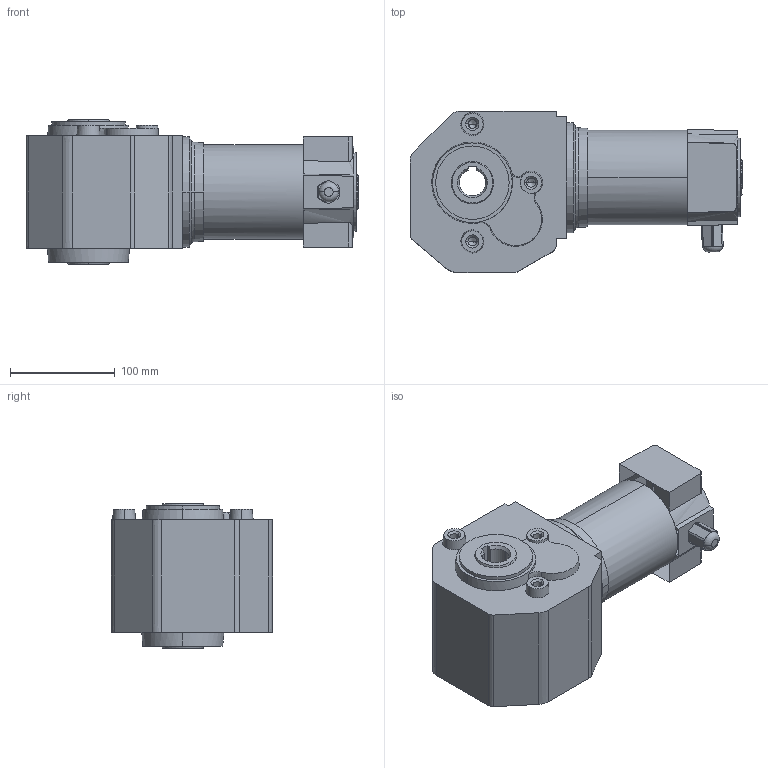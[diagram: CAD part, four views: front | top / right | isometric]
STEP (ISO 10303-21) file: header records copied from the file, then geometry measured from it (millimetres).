
FILE_DESCRIPTION(('OneSpaceDesigner STEP Export'),'2;1');
FILE_NAME('EPG21_ZB48.stp','2008-07-22T13:06:53',(''),(''),'OneSpace Designer STEP processor (Jan. 2003) for AP214(CD)(Solid Model)','OneSpace Designer 12.01D 09-Jul-2004 (C) CoCreate Software GmbH','');
FILE_SCHEMA(('AUTOMOTIVE_DESIGN_CC2 {1 2 10303 214 -1 1 5 1}'));
Length unit declared in the file: millimetre
Products named in the file (2): EPG21_ZB48
Assembly tree (1 placements, depth 2):
  EPG21_ZB48
    EPG21_ZB48
Bounding box: 316.5 x 153.5 x 138 mm (x, y, z)
Volume: 3443964.7 mm3; surface area: 175136.4 mm2
Topology: 1 solids, 1 shells, 147 faces, 369 edges, 239 vertices
Faces by surface type: plane 57, cylinder 39, cone 24, bspline 23, torus 4
Entity records: 15865 total; most frequent: CARTESIAN_POINT 12723, ORIENTED_EDGE 726, DIRECTION 462, EDGE_CURVE 363, VERTEX_POINT 239, EDGE_LOOP 170, AXIS2_PLACEMENT_3D 157, VECTOR 148
